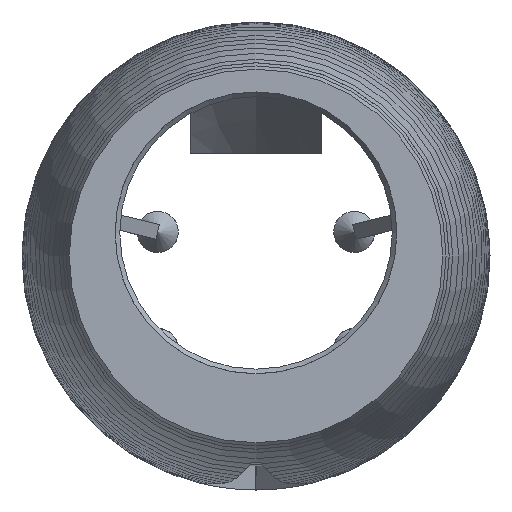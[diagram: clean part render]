
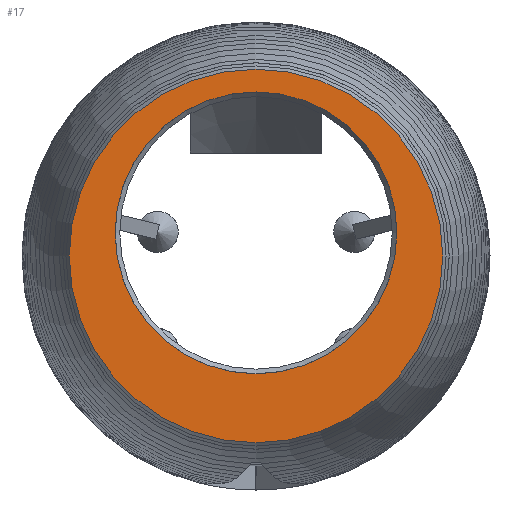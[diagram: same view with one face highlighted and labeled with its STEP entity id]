
A CAD part, left-side view. The second image highlights one B-rep face of the part: STEP entity #17.
In plain terms, the highlighted planar face has unit normal (-1, 0, 0).
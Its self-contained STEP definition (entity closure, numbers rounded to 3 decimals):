
#17 = ADVANCED_FACE('',(#18,#54),#31,.F.);
#18 = FACE_BOUND('',#19,.F.);
#19 = EDGE_LOOP('',(#20));
#20 = ORIENTED_EDGE('',*,*,#21,.F.);
#21 = EDGE_CURVE('',#22,#22,#24,.T.);
#22 = VERTEX_POINT('',#23);
#23 = CARTESIAN_POINT('',(16.7,0.,17.529));
#24 = SURFACE_CURVE('',#25,(#30,#42),.PCURVE_S1.);
#25 = CIRCLE('',#26,15.059);
#26 = AXIS2_PLACEMENT_3D('',#27,#28,#29);
#27 = CARTESIAN_POINT('',(16.7,0.,2.47));
#28 = DIRECTION('',(1.,0.,0.));
#29 = DIRECTION('',(0.,0.,1.));
#30 = PCURVE('',#31,#36);
#31 = PLANE('',#32);
#32 = AXIS2_PLACEMENT_3D('',#33,#34,#35);
#33 = CARTESIAN_POINT('',(16.7,-30.,-30.));
#34 = DIRECTION('',(1.,0.,-0.));
#35 = DIRECTION('',(0.,0.,1.));
#36 = DEFINITIONAL_REPRESENTATION('',(#37),#41);
#37 = CIRCLE('',#38,15.059);
#38 = AXIS2_PLACEMENT_2D('',#39,#40);
#39 = CARTESIAN_POINT('',(32.47,-30.));
#40 = DIRECTION('',(1.,0.));
#41 = ( GEOMETRIC_REPRESENTATION_CONTEXT(2) 
PARAMETRIC_REPRESENTATION_CONTEXT() REPRESENTATION_CONTEXT('2D SPACE',''
  ) );
#42 = PCURVE('',#43,#48);
#43 = CYLINDRICAL_SURFACE('',#44,15.059);
#44 = AXIS2_PLACEMENT_3D('',#45,#46,#47);
#45 = CARTESIAN_POINT('',(15.7,0.,2.47));
#46 = DIRECTION('',(1.,0.,0.));
#47 = DIRECTION('',(-0.,0.,1.));
#48 = DEFINITIONAL_REPRESENTATION('',(#49),#53);
#49 = LINE('',#50,#51);
#50 = CARTESIAN_POINT('',(0.,1.));
#51 = VECTOR('',#52,1.);
#52 = DIRECTION('',(1.,-0.));
#53 = ( GEOMETRIC_REPRESENTATION_CONTEXT(2) 
PARAMETRIC_REPRESENTATION_CONTEXT() REPRESENTATION_CONTEXT('2D SPACE',''
  ) );
#54 = FACE_BOUND('',#55,.F.);
#55 = EDGE_LOOP('',(#56));
#56 = ORIENTED_EDGE('',*,*,#57,.F.);
#57 = EDGE_CURVE('',#58,#58,#60,.T.);
#58 = VERTEX_POINT('',#59);
#59 = CARTESIAN_POINT('',(16.7,19.955,0.));
#60 = SURFACE_CURVE('',#61,(#66,#77),.PCURVE_S1.);
#61 = CIRCLE('',#62,19.955);
#62 = AXIS2_PLACEMENT_3D('',#63,#64,#65);
#63 = CARTESIAN_POINT('',(16.7,0.,0.));
#64 = DIRECTION('',(-1.,-0.,0.));
#65 = DIRECTION('',(-0.,1.,0.));
#66 = PCURVE('',#31,#67);
#67 = DEFINITIONAL_REPRESENTATION('',(#68),#76);
#68 = ( BOUNDED_CURVE() B_SPLINE_CURVE(2,(#69,#70,#71,#72,#73,#74,#75),
.UNSPECIFIED.,.T.,.F.) B_SPLINE_CURVE_WITH_KNOTS((1,2,2,2,2,1),(
    -2.094,0.,2.094,4.189,6.283,
8.378),.UNSPECIFIED.) CURVE() GEOMETRIC_REPRESENTATION_ITEM() 
RATIONAL_B_SPLINE_CURVE((1.,0.5,1.,0.5,1.,0.5,1.)) REPRESENTATION_ITEM(
  '') );
#69 = CARTESIAN_POINT('',(30.,-49.955));
#70 = CARTESIAN_POINT('',(-4.563,-49.955));
#71 = CARTESIAN_POINT('',(12.718,-20.022));
#72 = CARTESIAN_POINT('',(30.,9.91));
#73 = CARTESIAN_POINT('',(47.282,-20.022));
#74 = CARTESIAN_POINT('',(64.563,-49.955));
#75 = CARTESIAN_POINT('',(30.,-49.955));
#76 = ( GEOMETRIC_REPRESENTATION_CONTEXT(2) 
PARAMETRIC_REPRESENTATION_CONTEXT() REPRESENTATION_CONTEXT('2D SPACE',''
  ) );
#77 = PCURVE('',#78,#83);
#78 = CONICAL_SURFACE('',#79,19.955,0.413);
#79 = AXIS2_PLACEMENT_3D('',#80,#81,#82);
#80 = CARTESIAN_POINT('',(16.7,0.,0.));
#81 = DIRECTION('',(1.,0.,0.));
#82 = DIRECTION('',(-0.,1.,0.));
#83 = DEFINITIONAL_REPRESENTATION('',(#84),#88);
#84 = LINE('',#85,#86);
#85 = CARTESIAN_POINT('',(6.283,0.));
#86 = VECTOR('',#87,1.);
#87 = DIRECTION('',(-1.,-0.));
#88 = ( GEOMETRIC_REPRESENTATION_CONTEXT(2) 
PARAMETRIC_REPRESENTATION_CONTEXT() REPRESENTATION_CONTEXT('2D SPACE',''
  ) );
